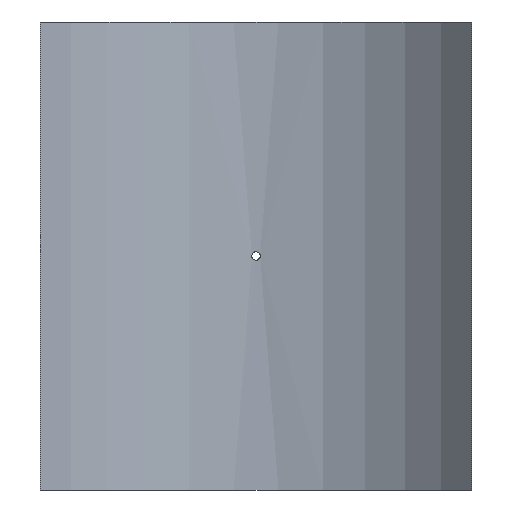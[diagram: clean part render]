
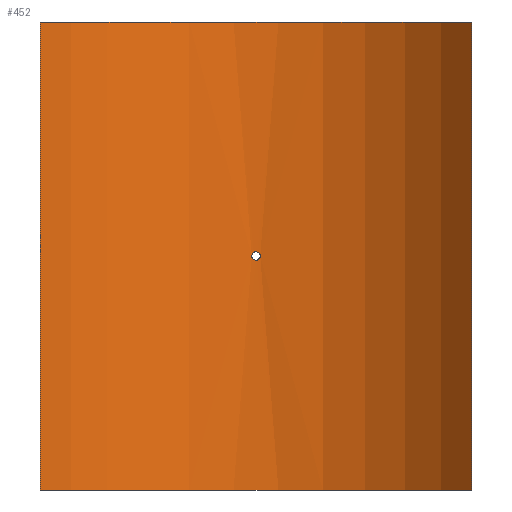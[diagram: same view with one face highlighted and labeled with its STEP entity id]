
A CAD part, front view. The second image highlights one B-rep face of the part: STEP entity #452.
In plain terms, the highlighted cylindrical face has radius 315 mm (diameter 630 mm), a partial arc.
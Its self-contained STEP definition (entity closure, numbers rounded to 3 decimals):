
#19=B_SPLINE_CURVE_WITH_KNOTS('',3,(#788,#789,#790,#791,#792,#793,#794,
#795,#796,#797,#798,#799,#800,#801,#802,#803,#804,#805,#806,#807,#808,#809,
#810,#811,#812,#813,#814,#815,#816,#817,#818,#819,#820,#821),
 .UNSPECIFIED.,.T.,.F.,(4,2,2,2,2,2,2,2,2,2,2,2,2,2,2,2,4),(0.,0.181,
0.362,0.542,0.723,0.904,
1.085,1.266,1.447,1.627,1.808,
1.989,2.17,2.351,2.531,2.712,
2.893),.UNSPECIFIED.);
#43=LINE('',#1065,#62);
#44=LINE('',#1068,#63);
#62=VECTOR('',#661,10.);
#63=VECTOR('',#664,10.);
#76=CYLINDRICAL_SURFACE('',#530,315.);
#88=FACE_BOUND('',#167,.T.);
#127=FACE_OUTER_BOUND('',#166,.T.);
#166=EDGE_LOOP('',(#405,#406,#407,#408));
#167=EDGE_LOOP('',(#409));
#201=CIRCLE('',#529,315.);
#202=CIRCLE('',#531,315.);
#219=VERTEX_POINT('',#786);
#242=VERTEX_POINT('',#1058);
#243=VERTEX_POINT('',#1060);
#244=VERTEX_POINT('',#1064);
#245=VERTEX_POINT('',#1066);
#267=EDGE_CURVE('',#219,#219,#19,.T.);
#299=EDGE_CURVE('',#242,#243,#201,.T.);
#301=EDGE_CURVE('',#244,#242,#43,.T.);
#302=EDGE_CURVE('',#245,#244,#202,.T.);
#303=EDGE_CURVE('',#245,#243,#44,.T.);
#405=ORIENTED_EDGE('',*,*,#301,.F.);
#406=ORIENTED_EDGE('',*,*,#302,.F.);
#407=ORIENTED_EDGE('',*,*,#303,.T.);
#408=ORIENTED_EDGE('',*,*,#299,.F.);
#409=ORIENTED_EDGE('',*,*,#267,.T.);
#452=ADVANCED_FACE('',(#127,#88),#76,.F.);
#529=AXIS2_PLACEMENT_3D('',#1061,#656,#657);
#530=AXIS2_PLACEMENT_3D('',#1063,#659,#660);
#531=AXIS2_PLACEMENT_3D('',#1067,#662,#663);
#656=DIRECTION('center_axis',(0.,0.,1.));
#657=DIRECTION('ref_axis',(0.776,0.63,0.));
#659=DIRECTION('center_axis',(0.,0.,1.));
#660=DIRECTION('ref_axis',(0.776,0.63,0.));
#661=DIRECTION('',(0.,0.,-1.));
#662=DIRECTION('center_axis',(0.,0.,-1.));
#663=DIRECTION('ref_axis',(0.776,0.63,0.));
#664=DIRECTION('',(0.,0.,-1.));
#786=CARTESIAN_POINT('',(4.8,314.963,0.));
#788=CARTESIAN_POINT('Ctrl Pts',(4.8,314.963,0.));
#789=CARTESIAN_POINT('Ctrl Pts',(4.8,314.963,-0.603));
#790=CARTESIAN_POINT('Ctrl Pts',(4.68,314.965,-1.246));
#791=CARTESIAN_POINT('Ctrl Pts',(4.19,314.972,-2.428));
#792=CARTESIAN_POINT('Ctrl Pts',(3.82,314.977,-2.968));
#793=CARTESIAN_POINT('Ctrl Pts',(2.968,314.986,-3.82));
#794=CARTESIAN_POINT('Ctrl Pts',(2.428,314.991,-4.19));
#795=CARTESIAN_POINT('Ctrl Pts',(1.246,314.998,-4.68));
#796=CARTESIAN_POINT('Ctrl Pts',(0.603,315.,-4.8));
#797=CARTESIAN_POINT('Ctrl Pts',(-0.603,315.,-4.8));
#798=CARTESIAN_POINT('Ctrl Pts',(-1.246,314.998,-4.68));
#799=CARTESIAN_POINT('Ctrl Pts',(-2.428,314.991,-4.19));
#800=CARTESIAN_POINT('Ctrl Pts',(-2.968,314.986,-3.82));
#801=CARTESIAN_POINT('Ctrl Pts',(-3.82,314.977,-2.968));
#802=CARTESIAN_POINT('Ctrl Pts',(-4.19,314.972,-2.428));
#803=CARTESIAN_POINT('Ctrl Pts',(-4.68,314.965,-1.246));
#804=CARTESIAN_POINT('Ctrl Pts',(-4.8,314.963,-0.603));
#805=CARTESIAN_POINT('Ctrl Pts',(-4.8,314.963,0.603));
#806=CARTESIAN_POINT('Ctrl Pts',(-4.68,314.965,1.246));
#807=CARTESIAN_POINT('Ctrl Pts',(-4.19,314.972,2.428));
#808=CARTESIAN_POINT('Ctrl Pts',(-3.82,314.977,2.968));
#809=CARTESIAN_POINT('Ctrl Pts',(-2.968,314.986,3.82));
#810=CARTESIAN_POINT('Ctrl Pts',(-2.428,314.991,4.19));
#811=CARTESIAN_POINT('Ctrl Pts',(-1.246,314.998,4.68));
#812=CARTESIAN_POINT('Ctrl Pts',(-0.603,315.,4.8));
#813=CARTESIAN_POINT('Ctrl Pts',(0.603,315.,4.8));
#814=CARTESIAN_POINT('Ctrl Pts',(1.246,314.998,4.68));
#815=CARTESIAN_POINT('Ctrl Pts',(2.428,314.991,4.19));
#816=CARTESIAN_POINT('Ctrl Pts',(2.968,314.986,3.82));
#817=CARTESIAN_POINT('Ctrl Pts',(3.82,314.977,2.968));
#818=CARTESIAN_POINT('Ctrl Pts',(4.19,314.972,2.428));
#819=CARTESIAN_POINT('Ctrl Pts',(4.68,314.965,1.246));
#820=CARTESIAN_POINT('Ctrl Pts',(4.8,314.963,0.603));
#821=CARTESIAN_POINT('Ctrl Pts',(4.8,314.963,0.));
#1058=CARTESIAN_POINT('',(244.5,198.607,-265.));
#1060=CARTESIAN_POINT('',(-244.5,198.607,-265.));
#1061=CARTESIAN_POINT('Origin',(0.,0.,
-265.));
#1063=CARTESIAN_POINT('Origin',(0.,0.,
0.));
#1064=CARTESIAN_POINT('',(244.5,198.607,265.));
#1065=CARTESIAN_POINT('',(244.5,198.607,0.));
#1066=CARTESIAN_POINT('',(-244.5,198.607,265.));
#1067=CARTESIAN_POINT('Origin',(0.,0.,
265.));
#1068=CARTESIAN_POINT('',(-244.5,198.607,0.));
